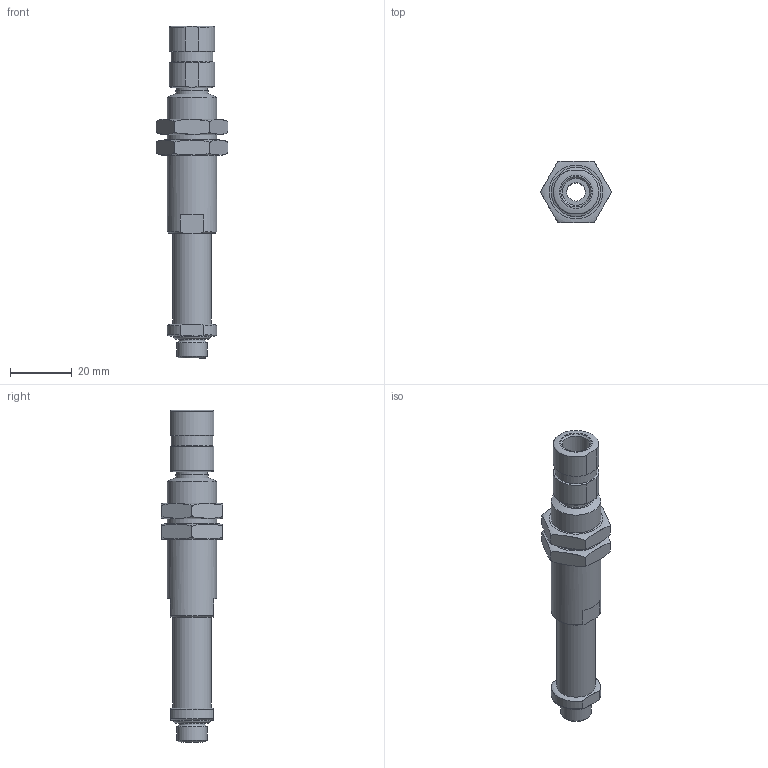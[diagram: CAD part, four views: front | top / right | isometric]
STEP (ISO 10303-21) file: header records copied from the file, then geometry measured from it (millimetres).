
FILE_DESCRIPTION( ( 'Unknown' ), '1' );
FILE_NAME( 'C:/Documents and Settings/Owner/官帕 拳搁/诀公楷遏_(Level Spring Stroke)/L1830T.stp', 'Unknown', ( 'Unknown' ), ( 'Unknown' ), 'PSStep 10.0', 'Unknown', ' ' );
FILE_SCHEMA( ( 'AUTOMOTIVE_DESIGN { 1 0 10303 214 1 1 1 1 }' ) );
Length unit declared in the file: millimetre
Products named in the file (1): 1
Bounding box: 23.09 x 20 x 107.5 mm (x, y, z)
Surface area: 8227.4 mm2 (no closed solid volume)
Topology: 0 solids, 70 shells, 70 faces, 283 edges, 255 vertices
Faces by surface type: plane 34, cylinder 18, cone 9, revolution 8, torus 1
Full cylindrical faces by diameter (mm): 6 x1, 8.5 x1, 8.8 x1, 9.8 x1, 10 x1, 10.5 x1, 12.2 x1, 12.5 x1, 13.5 x1, 16 x3
Entity records: 5064 total; most frequent: CARTESIAN_POINT 2487, DIRECTION 406, ORIENTED_EDGE 248, EDGE_CURVE 248, VERTEX_POINT 248, AXIS2_PLACEMENT_3D 167, FACE_BOUND 110, EDGE_LOOP 110
